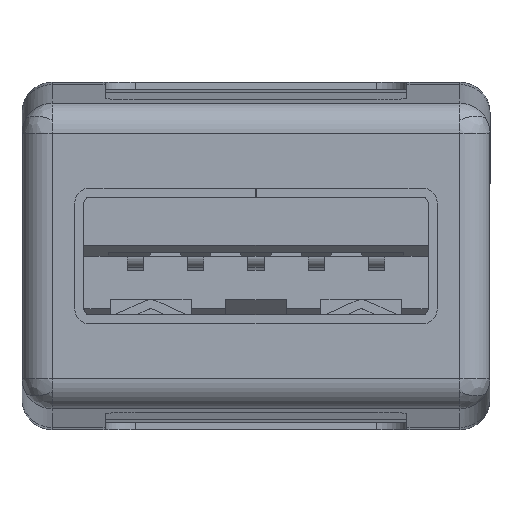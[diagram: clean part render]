
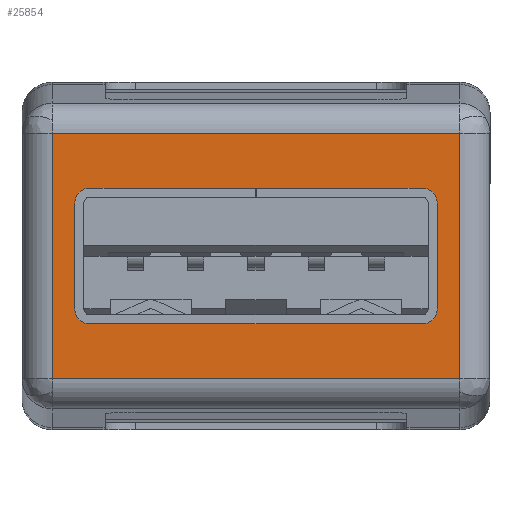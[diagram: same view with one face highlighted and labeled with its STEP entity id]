
A CAD part, front view. The second image highlights one B-rep face of the part: STEP entity #25854.
In plain terms, the highlighted planar face has unit normal (0, -1, 0) as drawn and (0, 0, -1) by its records, which use the part's own axes.
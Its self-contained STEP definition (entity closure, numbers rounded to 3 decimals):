
#683 = CARTESIAN_POINT ( 'NONE',  ( 6.75, -2.875, 0. ) ) ;
#969 = ORIENTED_EDGE ( 'NONE', *, *, #4061, .F. ) ;
#1173 = VERTEX_POINT ( 'NONE', #23623 ) ;
#1519 = DIRECTION ( 'NONE',  ( 1., 0., 0. ) ) ;
#2810 = CARTESIAN_POINT ( 'NONE',  ( 0., 0., 0. ) ) ;
#4061 = EDGE_CURVE ( 'NONE', #1173, #22365, #10373, .T. ) ;
#6244 = FACE_OUTER_BOUND ( 'NONE', #6273, .T. ) ;
#6273 = EDGE_LOOP ( 'NONE', ( #6627, #40093, #969, #8253 ) ) ;
#6467 = DIRECTION ( 'NONE',  ( 1., 0., 0. ) ) ;
#6627 = ORIENTED_EDGE ( 'NONE', *, *, #33705, .F. ) ;
#7140 = CARTESIAN_POINT ( 'NONE',  ( -6.75, 2.875, 0. ) ) ;
#8253 = ORIENTED_EDGE ( 'NONE', *, *, #28227, .F. ) ;
#8570 = CARTESIAN_POINT ( 'NONE',  ( 0., 4.066, 0. ) ) ;
#10054 = CARTESIAN_POINT ( 'NONE',  ( -6.75, -4.066, 0. ) ) ;
#10373 = LINE ( 'NONE', #7140, #41979 ) ;
#12117 = VERTEX_POINT ( 'NONE', #22137 ) ;
#12932 = LINE ( 'NONE', #683, #21790 ) ;
#17595 = CARTESIAN_POINT ( 'NONE',  ( -0.969, -4.066, 0. ) ) ;
#20151 = DIRECTION ( 'NONE',  ( 0., -1., 0. ) ) ;
#21790 = VECTOR ( 'NONE', #29789, 1000. ) ;
#22137 = CARTESIAN_POINT ( 'NONE',  ( 6.75, -4.066, 0. ) ) ;
#22365 = VERTEX_POINT ( 'NONE', #10054 ) ;
#23055 = VECTOR ( 'NONE', #1519, 1000. ) ;
#23114 = AXIS2_PLACEMENT_3D ( 'NONE', #2810, #26053, #6467 ) ;
#23623 = CARTESIAN_POINT ( 'NONE',  ( -6.75, 4.066, 0. ) ) ;
#24656 = EDGE_CURVE ( 'NONE', #22365, #12117, #33817, .T. ) ;
#25854 = ADVANCED_FACE ( 'NONE', ( #6244 ), #35301, .F. ) ;
#26053 = DIRECTION ( 'NONE',  ( 0., 0., 1. ) ) ;
#26066 = VECTOR ( 'NONE', #30923, 1000. ) ;
#28227 = EDGE_CURVE ( 'NONE', #31335, #1173, #34139, .T. ) ;
#29789 = DIRECTION ( 'NONE',  ( 0., 1., 0. ) ) ;
#30923 = DIRECTION ( 'NONE',  ( -1., 0., 0. ) ) ;
#31335 = VERTEX_POINT ( 'NONE', #31371 ) ;
#31371 = CARTESIAN_POINT ( 'NONE',  ( 6.75, 4.066, 0. ) ) ;
#33705 = EDGE_CURVE ( 'NONE', #12117, #31335, #12932, .T. ) ;
#33817 = LINE ( 'NONE', #17595, #23055 ) ;
#34139 = LINE ( 'NONE', #8570, #26066 ) ;
#35301 = PLANE ( 'NONE',  #23114 ) ;
#40093 = ORIENTED_EDGE ( 'NONE', *, *, #24656, .F. ) ;
#41979 = VECTOR ( 'NONE', #20151, 1000. ) ;
